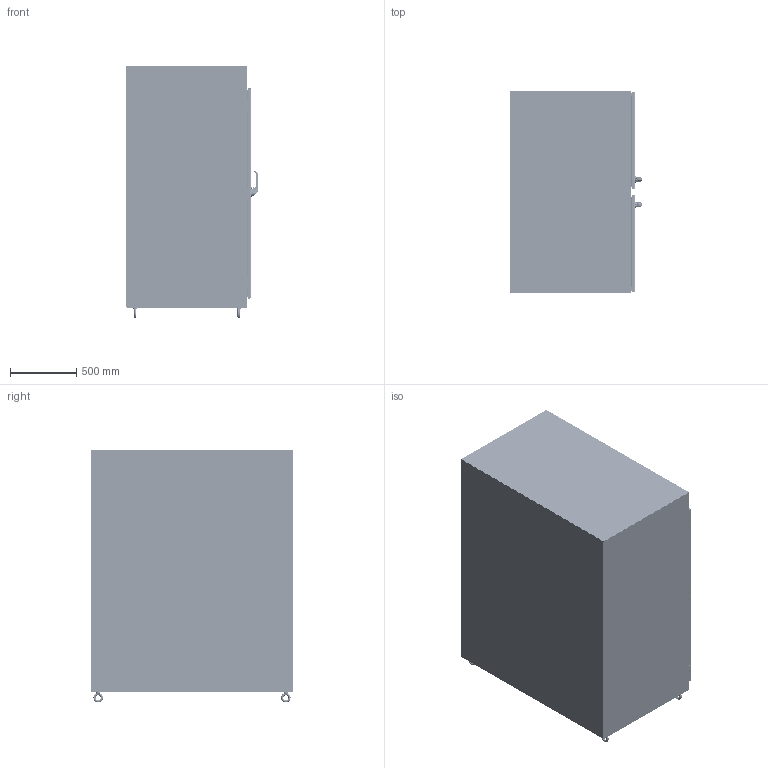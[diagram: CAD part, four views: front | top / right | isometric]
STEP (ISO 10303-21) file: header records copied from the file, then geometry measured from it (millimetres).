
FILE_DESCRIPTION((''),'2;1');
FILE_NAME('MODEL-233_ASM','2013-10-31T',('chads'),('SAGINAW CONTROL & ENGINEERING'),'PRO/ENGINEER BY PARAMETRIC TECHNOLOGY CORPORATION, 2012070','PRO/ENGINEER BY PARAMETRIC TECHNOLOGY CORPORATION, 2012070','');
FILE_SCHEMA(('AUTOMOTIVE_DESIGN { 1 0 10303 214 1 1 1 1 }'));
Length unit declared in the file: inch
Products named in the file (79): MODEL-233-L-SD; MODEL-233-TP; MODEL-233-BTM; MODEL-233-R-SD; MODEL-233-BCK; MODEL-233-RH-DR; MODEL-233-LH-DR; MODEL-233-CC; MODEL-233-CCS; 101383; 102532; 100882; 101221; 101670; 101400; 103290_ASM; 100837; 100954_HANDLE; 100954_HANDLE_INSERT; 100954_SCREW_LARGE; 100954_SHAFT_CAM; 100954_ADAPTER_CAM; 100954_NUT_CAM; 100954_BASE; 100954_O-RING; 100954_WASHER_SEALING; 100954_NUT_MOUNTING_LARGE; 100954_NUT_MOUNTING_SMALL; 100954_SCREW_SMALL; 100954_INSERT; 100954_CAM_LOCKING; 100954_INSERT_SCREW; 100954_SPRING_LARGE; 100954_PADLOCK_CATCH; 100954_SPRING_SMALL; 100954_WASHER; 100954_STOP_CAM; 100954_ASM; 102236; 100030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
Assembly tree (151 placements, depth 4):
  MODEL-233_ASM
    MODEL-233-L-SD
    MODEL-233-TP
    MODEL-233-BTM
    MODEL-233-R-SD
    MODEL-233-BCK
    MODEL-233-RH-DR
    MODEL-233-LH-DR
    MODEL-233-CC
    MODEL-233-CCS
    103290_ASM  x6
      101383
      102532
      100882
      101221
      101670
      101400
    101400  x6
    100837  x10
    103325_ASM
      100954_ASM
        100954_HANDLE
        100954_HANDLE_INSERT
        100954_SCREW_LARGE  x2
        100954_SHAFT_CAM
        100954_ADAPTER_CAM
        100954_NUT_CAM
        100954_BASE
        100954_O-RING
        100954_WASHER_SEALING
        100954_NUT_MOUNTING_LARGE
        100954_NUT_MOUNTING_SMALL
        100954_SCREW_SMALL
        100954_INSERT
        100954_CAM_LOCKING
        100954_INSERT_SCREW
        100954_SPRING_LARGE
        100954_PADLOCK_CATCH
        100954_SPRING_SMALL
        100954_WASHER
        100954_STOP_CAM
      102236_ASM
        102236
        100030  x2
    MODEL-233-ROD-U-RH_ASM
      112504
      MODEL-233-ROD-U-RH
      101390_ASM
        101390_GUIDE
        101390_INSERT
      112711
    MODEL-233-ROD-L-RH_ASM
      112504
      MODEL-233-ROD-L-RH
      101390_ASM
        101390_GUIDE
        101390_INSERT
      112711
    103306_ASM
      111267
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Bounding box: 991.46 x 1524 x 1909.05 mm (x, y, z)
Volume: 38333938.7 mm3; surface area: 28542098.6 mm2
Topology: 206 solids, 210 shells, 17509 faces, 44950 edges, 27699 vertices
Faces by surface type: plane 7210, cylinder 4155, bspline 2997, cone 1781, torus 1074, sphere 278, extrusion 14
Entity records: 292659 total; most frequent: CARTESIAN_POINT 96665, ORIENTED_EDGE 30912, DIRECTION 28701, PRESENTATION_STYLE_ASSIGNMENT 15558, EDGE_CURVE 15458, STYLED_ITEM 15398, CURVE_STYLE 15322, AXIS2_PLACEMENT_3D 10113
